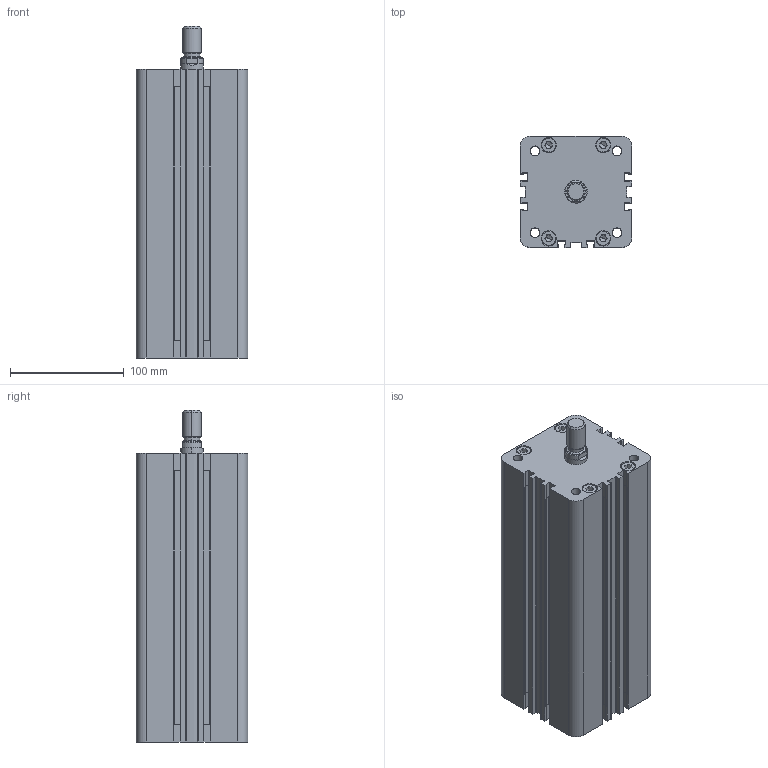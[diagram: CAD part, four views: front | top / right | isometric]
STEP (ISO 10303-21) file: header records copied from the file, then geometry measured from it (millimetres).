
FILE_DESCRIPTION (( 'STEP AP203' ), '1' );
FILE_NAME ('WFM0800200A.step', '2013-04-22T07:21:13', ( '' ), ( '' ), 'SwSTEP 2.0', 'SolidWorks 2012', '' );
FILE_SCHEMA (( 'CONFIG_CONTROL_DESIGN' ));
Length unit declared in the file: millimetre
Products named in the file (1): WFM0800200A
Bounding box: 98 x 98 x 292 mm (x, y, z)
Volume: 2274942 mm3; surface area: 178366.8 mm2
Topology: 1 solids, 1 shells, 561 faces, 1507 edges, 961 vertices
Faces by surface type: plane 280, cylinder 227, cone 34, torus 20
Entity records: 17661 total; most frequent: CARTESIAN_POINT 3164, DIRECTION 3144, ORIENTED_EDGE 2982, EDGE_CURVE 1491, AXIS2_PLACEMENT_3D 1109, VERTEX_POINT 961, VECTOR 926, LINE 926
